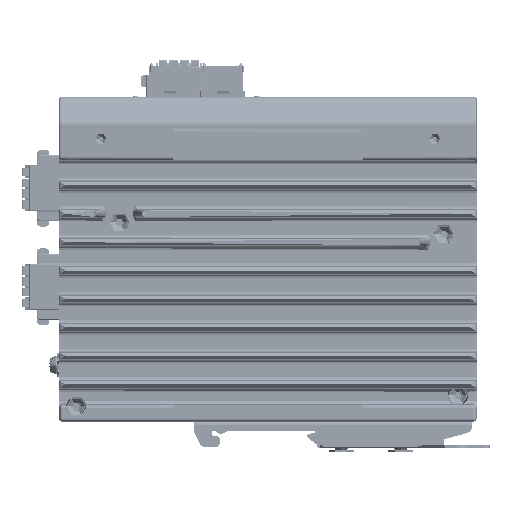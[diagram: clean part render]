
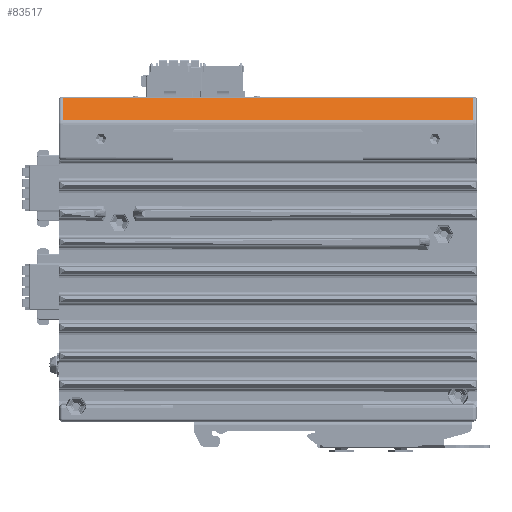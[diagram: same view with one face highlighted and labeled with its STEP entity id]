
A CAD part, front view. The second image highlights one B-rep face of the part: STEP entity #83517.
In plain terms, the highlighted planar face has unit normal (0, -0.707, 0.707).
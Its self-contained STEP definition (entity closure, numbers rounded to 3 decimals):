
#80235=DIRECTION('',(0.,0.707,0.707));
#80236=VECTOR('',#80235,10.257);
#80237=CARTESIAN_POINT('',(-67.2,-26.546,44.954));
#80238=LINE('',#80237,#80236);
#80265=DIRECTION('',(-1.,0.,0.));
#80266=VECTOR('',#80265,132.4);
#80267=CARTESIAN_POINT('',(65.2,-19.293,52.207));
#80268=LINE('',#80267,#80266);
#80286=DIRECTION('',(0.,-0.707,-0.707));
#80287=VECTOR('',#80286,10.257);
#80288=CARTESIAN_POINT('',(65.2,-19.293,52.207));
#80289=LINE('',#80288,#80287);
#80742=DIRECTION('',(1.,0.,0.));
#80743=VECTOR('',#80742,132.4);
#80744=CARTESIAN_POINT('',(-67.2,-26.546,44.954));
#80745=LINE('',#80744,#80743);
#82629=CARTESIAN_POINT('',(-67.2,-19.293,52.207));
#82630=VERTEX_POINT('',#82629);
#82631=CARTESIAN_POINT('',(-67.2,-26.546,44.954));
#82632=VERTEX_POINT('',#82631);
#82639=CARTESIAN_POINT('',(65.2,-19.293,52.207));
#82640=VERTEX_POINT('',#82639);
#82641=CARTESIAN_POINT('',(65.2,-26.546,44.954));
#82642=VERTEX_POINT('',#82641);
#83504=CARTESIAN_POINT('',(-1.,-22.919,48.581));
#83505=DIRECTION('',(0.,0.707,-0.707));
#83506=DIRECTION('',(-1.,0.,0.));
#83507=AXIS2_PLACEMENT_3D('',#83504,#83505,#83506);
#83508=PLANE('',#83507);
#83509=ORIENTED_EDGE('',*,*,#83442,.T.);
#83510=ORIENTED_EDGE('',*,*,#83488,.F.);
#83512=ORIENTED_EDGE('',*,*,#83511,.T.);
#83514=ORIENTED_EDGE('',*,*,#83513,.F.);
#83515=EDGE_LOOP('',(#83509,#83510,#83512,#83514));
#83516=FACE_OUTER_BOUND('',#83515,.F.);
#83442=EDGE_CURVE('',#82632,#82630,#80238,.T.);
#83488=EDGE_CURVE('',#82640,#82630,#80268,.T.);
#83511=EDGE_CURVE('',#82640,#82642,#80289,.T.);
#83513=EDGE_CURVE('',#82632,#82642,#80745,.T.);
#83517=ADVANCED_FACE('',(#83516),#83508,.F.);
